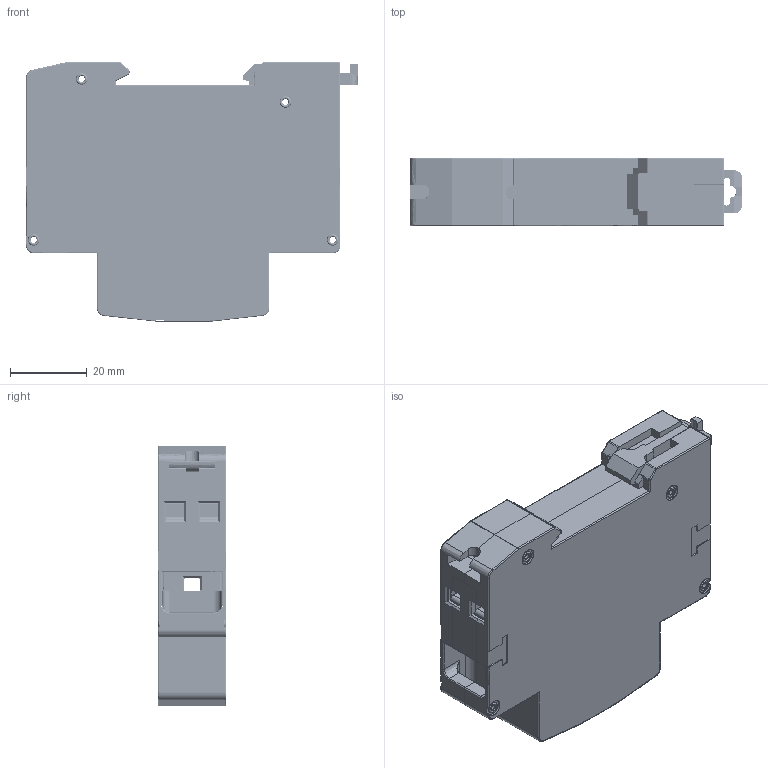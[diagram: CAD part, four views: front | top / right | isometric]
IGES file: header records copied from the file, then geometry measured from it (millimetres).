
Start section: SolidWorks IGES file using analytic representation for surfaces
Bounding box: 86.6 x 17.8 x 67.96 mm (x, y, z)
Surface area: 44864.2 mm2 (no closed solid volume)
Topology: 0 solids, 0 shells, 3052 faces, 24931 edges, 24811 vertices
Faces by surface type: bspline 1990, revolution 1062
